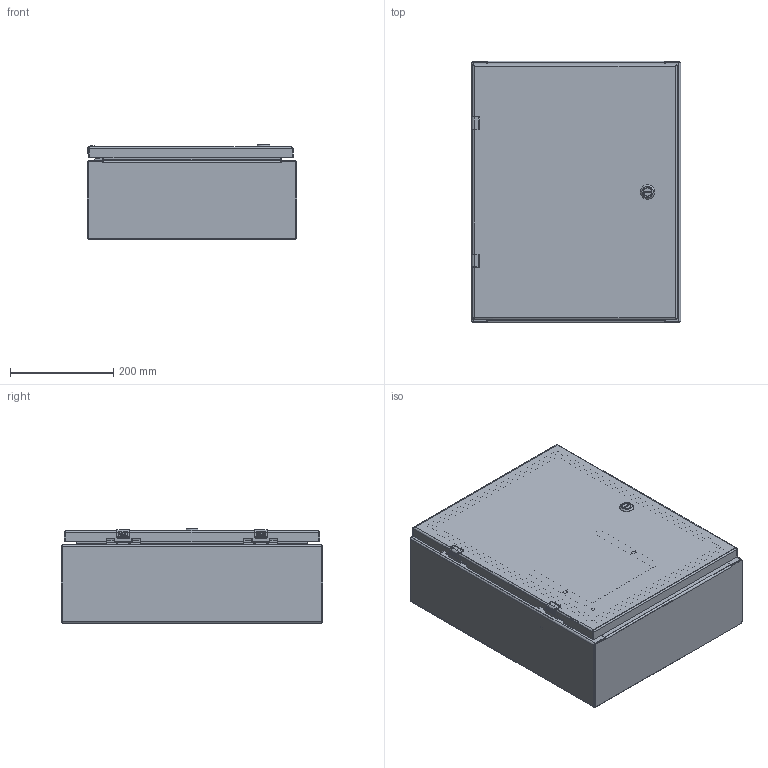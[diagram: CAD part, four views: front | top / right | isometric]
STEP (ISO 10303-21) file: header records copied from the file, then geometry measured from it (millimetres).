
FILE_DESCRIPTION((''),'2;1');
FILE_NAME('MODEL-306_ASM','2023-02-17T13:59:00',('mikek'),('SAGINAW CONTROL & ENGINEERING'),'CREO PARAMETRIC BY PTC INC, 2021284','CREO PARAMETRIC BY PTC INC, 2021284','');
FILE_SCHEMA(('AUTOMOTIVE_DESIGN { 1 0 10303 214 1 1 1 1 }'));
Length unit declared in the file: inch
Products named in the file (28): MODEL-306-BDY; MODEL-306-TP; MODEL-306-BTM; MODEL-306-DR; 100837; 100882; 111541; 100794_SHAFT; 100794_INSERT; 100794_CAM; 100794_NUT; 100794_SCREW; 100794_ASM; MODEL-306-DOOR-GASKET; 126392; 126392_ASM; 126395; 102483; 101226; 101389; 102140; MODEL-306-DOOR-ASSY_ASM; 101651; 122191; SUBPANEL; 100904; SUBPANEL-SUBASSEMBLY_ASM; MODEL-306_ASM
Assembly tree (47 placements, depth 4):
  MODEL-306_ASM
    MODEL-306-BDY
    MODEL-306-TP
    MODEL-306-BTM
    MODEL-306-DOOR-ASSY_ASM
      MODEL-306-DR
      100837  x3
      100882  x2
      111541
      100794_ASM
        100794_SHAFT
        100794_INSERT
        100794_CAM
        100794_NUT
        100794_SCREW
      MODEL-306-DOOR-GASKET
      126392_ASM  x2
        126392
      126395  x2
      102483  x6
      101226  x2
      101389  x2
      102140  x2
    100837
    101651  x4
    122191
    SUBPANEL-SUBASSEMBLY_ASM
      SUBPANEL
      100904  x4
Bounding box: 406.4 x 508 x 183.53 mm (x, y, z)
Volume: 2251861 mm3; surface area: 2066578.4 mm2
Topology: 44 solids, 44 shells, 2503 faces, 6377 edges, 4008 vertices
Faces by surface type: plane 1070, cylinder 664, bspline 432, torus 197, cone 88, sphere 52
Entity records: 80758 total; most frequent: CARTESIAN_POINT 23461, ORIENTED_EDGE 8266, DIRECTION 7702, PRESENTATION_STYLE_ASSIGNMENT 4330, EDGE_CURVE 4133, STYLED_ITEM 4055, CURVE_STYLE 3971, AXIS2_PLACEMENT_3D 2799
